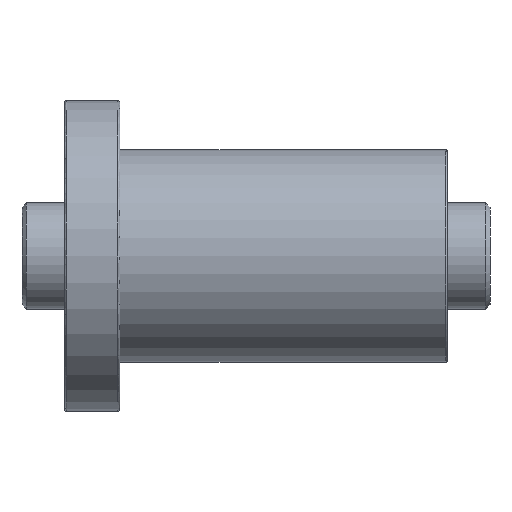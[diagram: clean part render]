
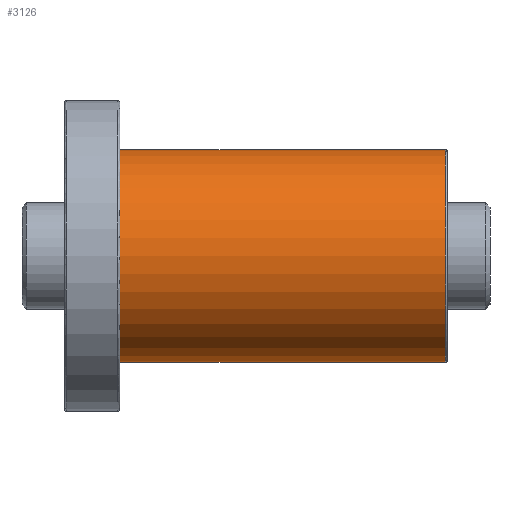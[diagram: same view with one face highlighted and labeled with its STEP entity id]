
A CAD part, front view. The second image highlights one B-rep face of the part: STEP entity #3126.
In plain terms, the highlighted cylindrical face has radius 25 mm (diameter 50 mm), a partial arc.
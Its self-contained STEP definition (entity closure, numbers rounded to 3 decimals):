
#161 = VECTOR ( 'NONE', #1840, 1000. ) ;
#544 = DIRECTION ( 'NONE',  ( 1., 0., 0. ) ) ;
#549 = CARTESIAN_POINT ( 'NONE',  ( 90., 0., -25. ) ) ;
#632 = AXIS2_PLACEMENT_3D ( 'NONE', #4869, #8103, #3651 ) ;
#722 = EDGE_CURVE ( 'NONE', #4166, #3025, #6220, .T. ) ;
#1045 = CARTESIAN_POINT ( 'NONE',  ( 89.5, 0., -25. ) ) ;
#1156 = CIRCLE ( 'NONE', #632, 25. ) ;
#1514 = DIRECTION ( 'NONE',  ( 0., 0., 1. ) ) ;
#1798 = LINE ( 'NONE', #1976, #3315 ) ;
#1840 = DIRECTION ( 'NONE',  ( -1., 0., 0. ) ) ;
#1976 = CARTESIAN_POINT ( 'NONE',  ( 90., 0., 25. ) ) ;
#1989 = EDGE_CURVE ( 'NONE', #6707, #4166, #1798, .T. ) ;
#2034 = CARTESIAN_POINT ( 'NONE',  ( 13., 0., -25. ) ) ;
#2360 = LINE ( 'NONE', #549, #161 ) ;
#2432 = CARTESIAN_POINT ( 'NONE',  ( 13., 0., 0. ) ) ;
#2458 = DIRECTION ( 'NONE',  ( 0., 0., 1. ) ) ;
#2751 = CARTESIAN_POINT ( 'NONE',  ( 13., 0., 25. ) ) ;
#2778 = AXIS2_PLACEMENT_3D ( 'NONE', #2432, #544, #2458 ) ;
#3025 = VERTEX_POINT ( 'NONE', #2034 ) ;
#3126 = ADVANCED_FACE ( 'NONE', ( #5699 ), #8290, .T. ) ;
#3315 = VECTOR ( 'NONE', #8268, 1000. ) ;
#3651 = DIRECTION ( 'NONE',  ( 0., 0., 1. ) ) ;
#4166 = VERTEX_POINT ( 'NONE', #2751 ) ;
#4292 = VERTEX_POINT ( 'NONE', #1045 ) ;
#4716 = EDGE_LOOP ( 'NONE', ( #7182, #6498, #6875, #5379 ) ) ;
#4869 = CARTESIAN_POINT ( 'NONE',  ( 89.5, 0., 0. ) ) ;
#4902 = EDGE_CURVE ( 'NONE', #4292, #6707, #1156, .T. ) ;
#5379 = ORIENTED_EDGE ( 'NONE', *, *, #722, .T. ) ;
#5635 = EDGE_CURVE ( 'NONE', #4292, #3025, #2360, .T. ) ;
#5699 = FACE_OUTER_BOUND ( 'NONE', #4716, .T. ) ;
#6220 = CIRCLE ( 'NONE', #2778, 25. ) ;
#6498 = ORIENTED_EDGE ( 'NONE', *, *, #4902, .T. ) ;
#6541 = AXIS2_PLACEMENT_3D ( 'NONE', #7927, #7211, #1514 ) ;
#6707 = VERTEX_POINT ( 'NONE', #7183 ) ;
#6875 = ORIENTED_EDGE ( 'NONE', *, *, #1989, .T. ) ;
#7182 = ORIENTED_EDGE ( 'NONE', *, *, #5635, .F. ) ;
#7183 = CARTESIAN_POINT ( 'NONE',  ( 89.5, 0., 25. ) ) ;
#7211 = DIRECTION ( 'NONE',  ( -1., 0., 0. ) ) ;
#7927 = CARTESIAN_POINT ( 'NONE',  ( 90., 0., 0. ) ) ;
#8103 = DIRECTION ( 'NONE',  ( -1., 0., 0. ) ) ;
#8268 = DIRECTION ( 'NONE',  ( -1., 0., 0. ) ) ;
#8290 = CYLINDRICAL_SURFACE ( 'NONE', #6541, 25. ) ;
